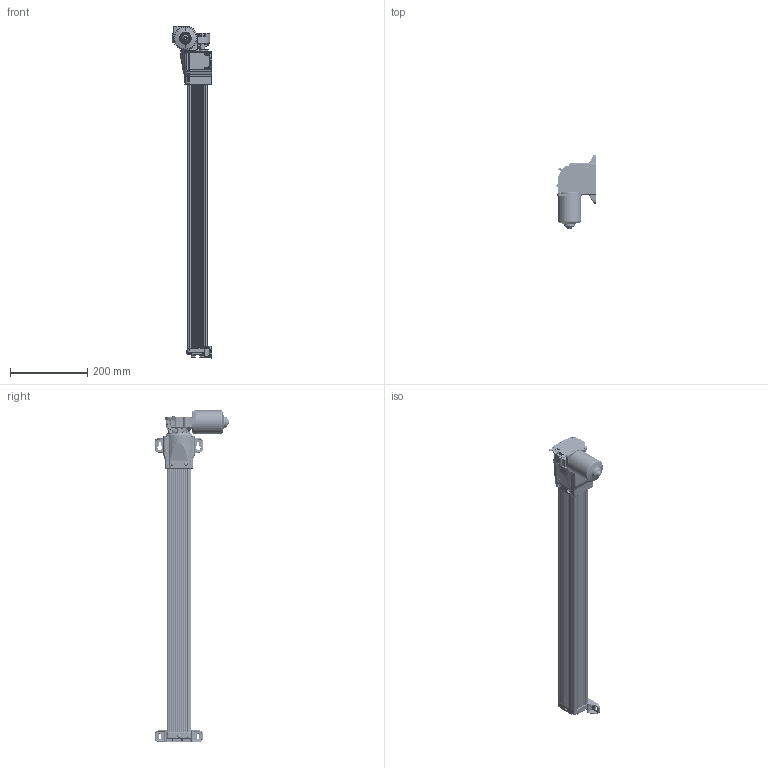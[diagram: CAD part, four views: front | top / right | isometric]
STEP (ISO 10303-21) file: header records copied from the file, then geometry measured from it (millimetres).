
FILE_DESCRIPTION (( 'STEP AP203' ), '1' );
FILE_NAME ('QXY30 Motor.STEP', '2014-01-22T20:59:34', ( '' ), ( '' ), 'SwSTEP 2.0', 'SolidWorks 2013', '' );
FILE_SCHEMA (( 'CONFIG_CONTROL_DESIGN' ));
Length unit declared in the file: millimetre
Products named in the file (1): QXY30 Motor
Bounding box: 102.7 x 193.55 x 860.97 mm (x, y, z)
Volume: 1055975.3 mm3; surface area: 531113.3 mm2
Topology: 31 solids, 31 shells, 5080 faces, 12348 edges, 7414 vertices
Faces by surface type: cylinder 1634, plane 1152, torus 922, cone 683, bspline 616, sphere 73
Entity records: 168499 total; most frequent: CARTESIAN_POINT 52313, DIRECTION 25066, ORIENTED_EDGE 24506, EDGE_CURVE 12253, AXIS2_PLACEMENT_3D 10276, VERTEX_POINT 7410, CIRCLE 5811, EDGE_LOOP 5341
